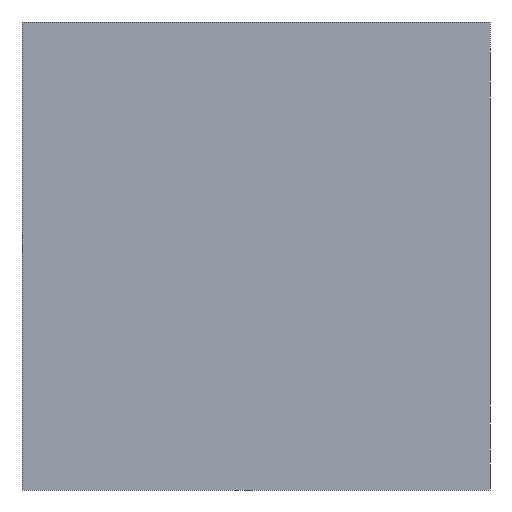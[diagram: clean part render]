
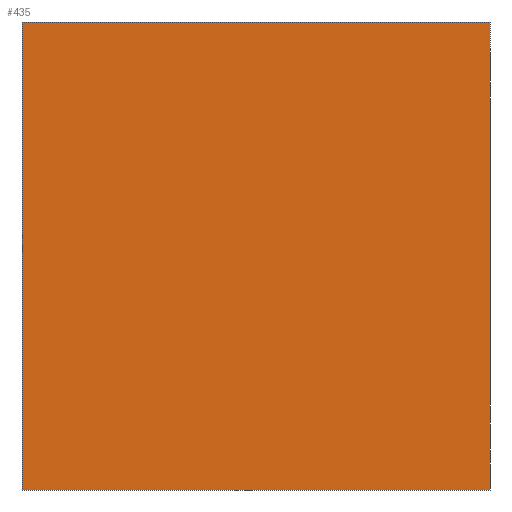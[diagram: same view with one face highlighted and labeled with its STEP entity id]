
A CAD part, front view. The second image highlights one B-rep face of the part: STEP entity #435.
In plain terms, the highlighted planar face has unit normal (0, -1, 0).
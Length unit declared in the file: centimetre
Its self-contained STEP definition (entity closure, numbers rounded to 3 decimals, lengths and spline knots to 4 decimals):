
#19 = CARTESIAN_POINT ( 'NONE',  ( 0., 0., 1000. ) ) ;
#21 = DIRECTION ( 'NONE',  ( 0., 0., 1. ) ) ;
#25 = VERTEX_POINT ( 'NONE', #398 ) ;
#29 = FACE_OUTER_BOUND ( 'NONE', #302, .T. ) ;
#38 = ORIENTED_EDGE ( 'NONE', *, *, #325, .F. ) ;
#67 = CARTESIAN_POINT ( 'NONE',  ( 1000., 0., 0. ) ) ;
#77 = LINE ( 'NONE', #418, #331 ) ;
#109 = DIRECTION ( 'NONE',  ( 0., 1., 0. ) ) ;
#138 = VERTEX_POINT ( 'NONE', #141 ) ;
#141 = CARTESIAN_POINT ( 'NONE',  ( 0., 0., 1000. ) ) ;
#155 = ORIENTED_EDGE ( 'NONE', *, *, #499, .T. ) ;
#201 = LINE ( 'NONE', #380, #359 ) ;
#221 = CARTESIAN_POINT ( 'NONE',  ( 0., 0., 1000. ) ) ;
#250 = CARTESIAN_POINT ( 'NONE',  ( 0., 0., 1000. ) ) ;
#302 = EDGE_LOOP ( 'NONE', ( #551, #388, #38, #155 ) ) ;
#325 = EDGE_CURVE ( 'NONE', #138, #25, #327, .T. ) ;
#327 = LINE ( 'NONE', #221, #337 ) ;
#331 = VECTOR ( 'NONE', #547, 100. ) ;
#333 = DIRECTION ( 'NONE',  ( 0., 0., -1. ) ) ;
#337 = VECTOR ( 'NONE', #439, 100. ) ;
#357 = AXIS2_PLACEMENT_3D ( 'NONE', #19, #109, #21 ) ;
#359 = VECTOR ( 'NONE', #333, 100. ) ;
#368 = EDGE_CURVE ( 'NONE', #514, #437, #77, .T. ) ;
#380 = CARTESIAN_POINT ( 'NONE',  ( 1000., 0., 1000. ) ) ;
#381 = CARTESIAN_POINT ( 'NONE',  ( 0., 0., 0. ) ) ;
#388 = ORIENTED_EDGE ( 'NONE', *, *, #421, .F. ) ;
#398 = CARTESIAN_POINT ( 'NONE',  ( 1000., 0., 1000. ) ) ;
#407 = PLANE ( 'NONE',  #357 ) ;
#418 = CARTESIAN_POINT ( 'NONE',  ( 0., 0., 0. ) ) ;
#421 = EDGE_CURVE ( 'NONE', #25, #437, #201, .T. ) ;
#435 = ADVANCED_FACE ( 'NONE', ( #29 ), #407, .F. ) ;
#437 = VERTEX_POINT ( 'NONE', #67 ) ;
#439 = DIRECTION ( 'NONE',  ( 1., 0., 0. ) ) ;
#462 = DIRECTION ( 'NONE',  ( 0., 0., -1. ) ) ;
#464 = VECTOR ( 'NONE', #462, 100. ) ;
#466 = LINE ( 'NONE', #250, #464 ) ;
#499 = EDGE_CURVE ( 'NONE', #138, #514, #466, .T. ) ;
#514 = VERTEX_POINT ( 'NONE', #381 ) ;
#547 = DIRECTION ( 'NONE',  ( 1., 0., 0. ) ) ;
#551 = ORIENTED_EDGE ( 'NONE', *, *, #368, .T. ) ;
